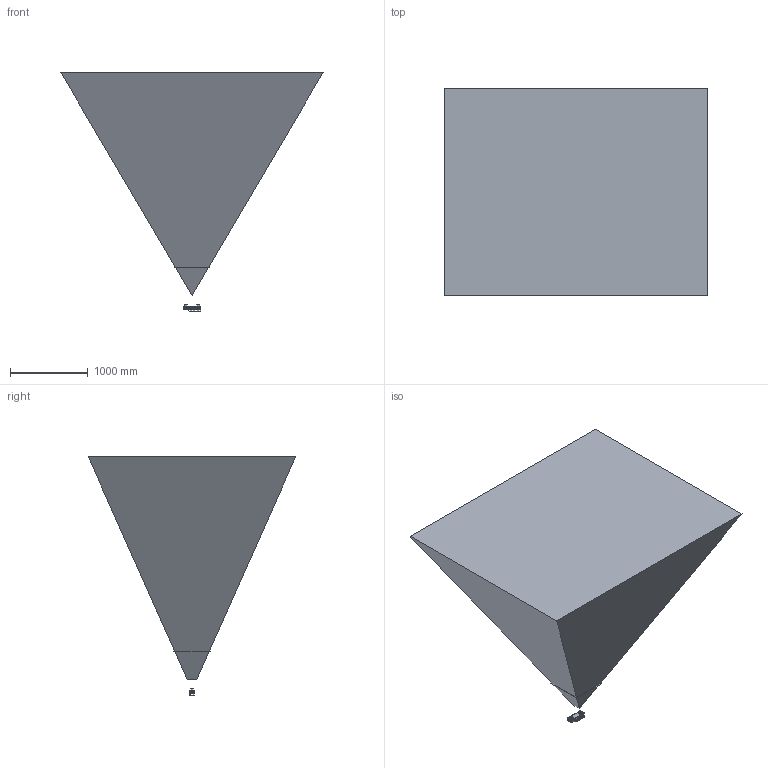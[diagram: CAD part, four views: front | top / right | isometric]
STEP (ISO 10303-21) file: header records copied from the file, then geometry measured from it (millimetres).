
FILE_DESCRIPTION((''),'2;1');
FILE_NAME('RC_VISARD160_4_VIS_ASM','2022-07-18T09:52:12',('seibold'),(''),'CREO PARAMETRIC BY PTC INC, 2018500','CREO PARAMETRIC BY PTC INC, 2018500','');
FILE_SCHEMA(('AUTOMOTIVE_DESIGN { 1 0 10303 214 1 1 1 1 }'));
Products named in the file (7): RC_VISARD160; RC_VISARD160_4_VISPYRAMID; KT_PHOENIX_H01; KT_PHOENIX_1412080; KT_PHOENIX_M12FS-8P_1411953; KT_PHOENIX_M12MS-8P_1411959; RC_VISARD160_4_VIS_ASM
Assembly tree (6 placements, depth 2):
  RC_VISARD160_4_VIS_ASM
    RC_VISARD160
    RC_VISARD160_4_VISPYRAMID
    KT_PHOENIX_H01
    KT_PHOENIX_1412080
    KT_PHOENIX_M12FS-8P_1411953
    KT_PHOENIX_M12MS-8P_1411959
Bounding box: 3374.27 x 2671.37 x 3066 mm (x, y, z)
Volume: 300975.7 mm3; surface area: 29074063.9 mm2
Topology: 5 solids, 7 shells, 3039 faces, 8124 edges, 5276 vertices
Faces by surface type: plane 2042, cylinder 539, cone 164, extrusion 155, torus 89, bspline 50
Entity records: 132396 total; most frequent: CARTESIAN_POINT 25783, ORIENTED_EDGE 16228, DIRECTION 14736, PRESENTATION_STYLE_ASSIGNMENT 8325, EDGE_CURVE 8118, STYLED_ITEM 7735, CURVE_STYLE 7725, VECTOR 6170
